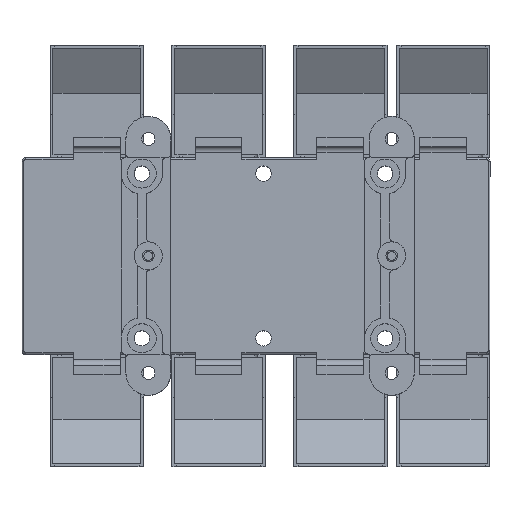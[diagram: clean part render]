
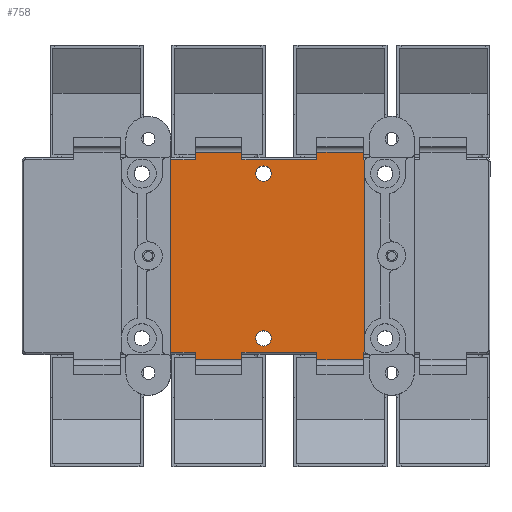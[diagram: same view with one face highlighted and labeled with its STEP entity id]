
A CAD part, top view. The second image highlights one B-rep face of the part: STEP entity #758.
In plain terms, the highlighted planar face has unit normal (0, 0, 1).
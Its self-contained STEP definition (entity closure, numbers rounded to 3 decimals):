
#182=FACE_BOUND('',#2003,.T.);
#183=FACE_BOUND('',#2004,.T.);
#184=FACE_BOUND('',#2005,.T.);
#758=ADVANCED_FACE('',(#182,#183,#184),#1094,.F.);
#1094=PLANE('',#9849);
#2003=EDGE_LOOP('',(#6510));
#2004=EDGE_LOOP('',(#6511));
#2005=EDGE_LOOP('',(#6512,#6513,#6514,#6515,#6516,#6517,#6518,#6519,#6520,
#6521,#6522,#6523,#6524,#6525,#6526,#6527,#6528,#6529,#6530,#6531,#6532,
#6533));
#2222=LINE('',#12838,#3234);
#2234=LINE('',#12876,#3246);
#2236=LINE('',#12879,#3248);
#2238=LINE('',#12885,#3250);
#2242=LINE('',#12903,#3254);
#2247=LINE('',#12917,#3259);
#2254=LINE('',#12938,#3266);
#2267=LINE('',#12977,#3279);
#2269=LINE('',#12983,#3281);
#2270=LINE('',#12985,#3282);
#2278=LINE('',#13012,#3290);
#2280=LINE('',#13018,#3292);
#2865=LINE('',#14428,#3877);
#2975=LINE('',#14930,#3987);
#3021=LINE('',#15030,#4033);
#3022=LINE('',#15032,#4034);
#3025=LINE('',#15036,#4037);
#3026=LINE('',#15038,#4038);
#3029=LINE('',#15042,#4041);
#3032=LINE('',#15046,#4044);
#3234=VECTOR('',#10272,1.);
#3246=VECTOR('',#10308,1.);
#3248=VECTOR('',#10312,1.);
#3250=VECTOR('',#10318,1.);
#3254=VECTOR('',#10334,1.);
#3259=VECTOR('',#10345,1.);
#3266=VECTOR('',#10368,1.);
#3279=VECTOR('',#10405,1.);
#3281=VECTOR('',#10411,1.);
#3282=VECTOR('',#10414,1.);
#3290=VECTOR('',#10436,1.);
#3292=VECTOR('',#10442,1.);
#3877=VECTOR('',#11705,1.);
#3987=VECTOR('',#12167,1.);
#4033=VECTOR('',#12297,1.);
#4034=VECTOR('',#12300,1.);
#4037=VECTOR('',#12305,1.);
#4038=VECTOR('',#12308,1.);
#4041=VECTOR('',#12313,1.);
#4044=VECTOR('',#12318,1.);
#6510=ORIENTED_EDGE('',*,*,#8824,.F.);
#6511=ORIENTED_EDGE('',*,*,#8825,.F.);
#6512=ORIENTED_EDGE('',*,*,#7777,.T.);
#6513=ORIENTED_EDGE('',*,*,#8819,.T.);
#6514=ORIENTED_EDGE('',*,*,#8701,.T.);
#6515=ORIENTED_EDGE('',*,*,#8752,.T.);
#6516=ORIENTED_EDGE('',*,*,#8697,.T.);
#6517=ORIENTED_EDGE('',*,*,#8815,.T.);
#6518=ORIENTED_EDGE('',*,*,#7790,.T.);
#6519=ORIENTED_EDGE('',*,*,#7782,.F.);
#6520=ORIENTED_EDGE('',*,*,#7797,.T.);
#6521=ORIENTED_EDGE('',*,*,#8816,.T.);
#6522=ORIENTED_EDGE('',*,*,#7843,.F.);
#6523=ORIENTED_EDGE('',*,*,#7830,.F.);
#6524=ORIENTED_EDGE('',*,*,#7846,.F.);
#6525=ORIENTED_EDGE('',*,*,#8811,.T.);
#6526=ORIENTED_EDGE('',*,*,#8544,.F.);
#6527=ORIENTED_EDGE('',*,*,#8812,.T.);
#6528=ORIENTED_EDGE('',*,*,#7829,.F.);
#6529=ORIENTED_EDGE('',*,*,#7807,.T.);
#6530=ORIENTED_EDGE('',*,*,#7826,.F.);
#6531=ORIENTED_EDGE('',*,*,#8822,.T.);
#6532=ORIENTED_EDGE('',*,*,#7779,.T.);
#6533=ORIENTED_EDGE('',*,*,#7759,.T.);
#6819=VERTEX_POINT('',#12837);
#6820=VERTEX_POINT('',#12839);
#6832=VERTEX_POINT('',#12874);
#6834=VERTEX_POINT('',#12880);
#6836=VERTEX_POINT('',#12886);
#6837=VERTEX_POINT('',#12887);
#6844=VERTEX_POINT('',#12904);
#6848=VERTEX_POINT('',#12915);
#6854=VERTEX_POINT('',#12936);
#6856=VERTEX_POINT('',#12939);
#6869=VERTEX_POINT('',#12976);
#6870=VERTEX_POINT('',#12980);
#6872=VERTEX_POINT('',#12986);
#6873=VERTEX_POINT('',#12987);
#6880=VERTEX_POINT('',#13004);
#6885=VERTEX_POINT('',#13017);
#7369=VERTEX_POINT('',#14416);
#7372=VERTEX_POINT('',#14429);
#7475=VERTEX_POINT('',#14808);
#7476=VERTEX_POINT('',#14810);
#7479=VERTEX_POINT('',#14817);
#7480=VERTEX_POINT('',#14819);
#7528=VERTEX_POINT('',#15052);
#7529=VERTEX_POINT('',#15054);
#7759=EDGE_CURVE('',#6820,#6819,#2222,.T.);
#7777=EDGE_CURVE('',#6819,#6832,#2234,.T.);
#7779=EDGE_CURVE('',#6834,#6820,#2236,.T.);
#7782=EDGE_CURVE('',#6836,#6837,#2238,.T.);
#7790=EDGE_CURVE('',#6844,#6837,#2242,.T.);
#7797=EDGE_CURVE('',#6836,#6848,#2247,.T.);
#7807=EDGE_CURVE('',#6856,#6854,#2254,.T.);
#7826=EDGE_CURVE('',#6869,#6854,#2267,.T.);
#7829=EDGE_CURVE('',#6856,#6870,#2269,.T.);
#7830=EDGE_CURVE('',#6872,#6873,#2270,.T.);
#7843=EDGE_CURVE('',#6873,#6880,#2278,.T.);
#7846=EDGE_CURVE('',#6885,#6872,#2280,.T.);
#8544=EDGE_CURVE('',#7369,#7372,#2865,.T.);
#8697=EDGE_CURVE('',#7476,#7475,#9081,.T.);
#8701=EDGE_CURVE('',#7480,#7479,#9083,.T.);
#8752=EDGE_CURVE('',#7479,#7476,#2975,.T.);
#8811=EDGE_CURVE('',#6885,#7372,#3021,.T.);
#8812=EDGE_CURVE('',#7369,#6870,#3022,.T.);
#8815=EDGE_CURVE('',#7475,#6844,#3025,.T.);
#8816=EDGE_CURVE('',#6848,#6880,#3026,.T.);
#8819=EDGE_CURVE('',#6832,#7480,#3029,.T.);
#8822=EDGE_CURVE('',#6869,#6834,#3032,.T.);
#8824=EDGE_CURVE('',#7528,#7528,#9116,.T.);
#8825=EDGE_CURVE('',#7529,#7529,#9117,.T.);
#9081=CIRCLE('',#9760,2.);
#9083=CIRCLE('',#9763,2.);
#9116=CIRCLE('',#9847,4.1);
#9117=CIRCLE('',#9848,4.1);
#9760=AXIS2_PLACEMENT_3D('',#14809,#12061,#12062);
#9763=AXIS2_PLACEMENT_3D('',#14818,#12069,#12070);
#9847=AXIS2_PLACEMENT_3D('',#15051,#12326,#12327);
#9848=AXIS2_PLACEMENT_3D('',#15053,#12328,#12329);
#9849=AXIS2_PLACEMENT_3D('',#15055,#12330,#12331);
#10272=DIRECTION('',(1.,0.,0.));
#10308=DIRECTION('',(0.,1.,0.));
#10312=DIRECTION('',(0.,-1.,0.));
#10318=DIRECTION('',(1.,0.,0.));
#10334=DIRECTION('',(0.,1.,0.));
#10345=DIRECTION('',(0.,-1.,0.));
#10368=DIRECTION('',(1.,0.,0.));
#10405=DIRECTION('',(0.,-1.,0.));
#10411=DIRECTION('',(0.,1.,0.));
#10414=DIRECTION('',(1.,0.,0.));
#10436=DIRECTION('',(0.,-1.,0.));
#10442=DIRECTION('',(0.,1.,0.));
#11705=DIRECTION('',(0.,1.,0.));
#12061=DIRECTION('',(0.,0.,-1.));
#12062=DIRECTION('',(-1.,0.,0.));
#12069=DIRECTION('',(0.,0.,-1.));
#12070=DIRECTION('',(-1.,0.,0.));
#12167=DIRECTION('',(0.,1.,0.));
#12297=DIRECTION('',(-1.,0.,0.));
#12300=DIRECTION('',(1.,0.,0.));
#12305=DIRECTION('',(-1.,0.,0.));
#12308=DIRECTION('',(-1.,0.,0.));
#12313=DIRECTION('',(1.,0.,0.));
#12318=DIRECTION('',(1.,0.,0.));
#12326=DIRECTION('',(0.,0.,1.));
#12327=DIRECTION('',(-1.,0.,0.));
#12328=DIRECTION('',(0.,0.,1.));
#12329=DIRECTION('',(-1.,0.,0.));
#12330=DIRECTION('',(0.,0.,-1.));
#12331=DIRECTION('',(-1.,0.,0.));
#12837=CARTESIAN_POINT('',(-15.,-55.5,0.));
#12838=CARTESIAN_POINT('',(-40.,-55.5,0.));
#12839=CARTESIAN_POINT('',(-40.,-55.5,0.));
#12874=CARTESIAN_POINT('',(-15.,-51.5,0.));
#12876=CARTESIAN_POINT('',(-15.,-50.5,0.));
#12879=CARTESIAN_POINT('',(-40.,-50.5,0.));
#12880=CARTESIAN_POINT('',(-40.,-51.5,0.));
#12885=CARTESIAN_POINT('',(-40.,55.5,0.));
#12886=CARTESIAN_POINT('',(-40.,55.5,0.));
#12887=CARTESIAN_POINT('',(-15.,55.5,0.));
#12903=CARTESIAN_POINT('',(-15.,-50.5,0.));
#12904=CARTESIAN_POINT('',(-15.,51.5,0.));
#12915=CARTESIAN_POINT('',(-40.,51.5,0.));
#12917=CARTESIAN_POINT('',(-40.,-50.5,0.));
#12936=CARTESIAN_POINT('',(-80.,-55.5,0.));
#12938=CARTESIAN_POINT('',(-105.,-55.5,0.));
#12939=CARTESIAN_POINT('',(-105.,-55.5,0.));
#12976=CARTESIAN_POINT('',(-80.,-51.5,0.));
#12977=CARTESIAN_POINT('',(-80.,-50.5,0.));
#12980=CARTESIAN_POINT('',(-105.,-51.5,0.));
#12983=CARTESIAN_POINT('',(-105.,-50.5,0.));
#12985=CARTESIAN_POINT('',(-105.,55.5,0.));
#12986=CARTESIAN_POINT('',(-105.,55.5,0.));
#12987=CARTESIAN_POINT('',(-80.,55.5,0.));
#13004=CARTESIAN_POINT('',(-80.,51.5,0.));
#13012=CARTESIAN_POINT('',(-80.,-50.5,0.));
#13017=CARTESIAN_POINT('',(-105.,51.5,0.));
#13018=CARTESIAN_POINT('',(-105.,-50.5,0.));
#14416=CARTESIAN_POINT('',(-118.,-51.5,0.));
#14428=CARTESIAN_POINT('',(-118.,62.5,0.));
#14429=CARTESIAN_POINT('',(-118.,51.5,0.));
#14808=CARTESIAN_POINT('',(-14.232,51.5,0.));
#14809=CARTESIAN_POINT('',(-12.5,50.5,0.));
#14810=CARTESIAN_POINT('',(-14.5,50.5,0.));
#14817=CARTESIAN_POINT('',(-14.5,-50.5,0.));
#14818=CARTESIAN_POINT('',(-12.5,-50.5,0.));
#14819=CARTESIAN_POINT('',(-14.232,-51.5,0.));
#14930=CARTESIAN_POINT('',(-14.5,62.5,0.));
#15030=CARTESIAN_POINT('',(-195.5,51.5,0.));
#15032=CARTESIAN_POINT('',(-12.5,-51.5,0.));
#15036=CARTESIAN_POINT('',(-195.5,51.5,0.));
#15038=CARTESIAN_POINT('',(-195.5,51.5,0.));
#15042=CARTESIAN_POINT('',(-12.5,-51.5,0.));
#15046=CARTESIAN_POINT('',(-12.5,-51.5,0.));
#15051=CARTESIAN_POINT('',(-68.5,-44.,0.));
#15052=CARTESIAN_POINT('',(-72.6,-44.,0.));
#15053=CARTESIAN_POINT('',(-68.5,44.,0.));
#15054=CARTESIAN_POINT('',(-72.6,44.,0.));
#15055=CARTESIAN_POINT('',(50.5,-50.5,0.));
